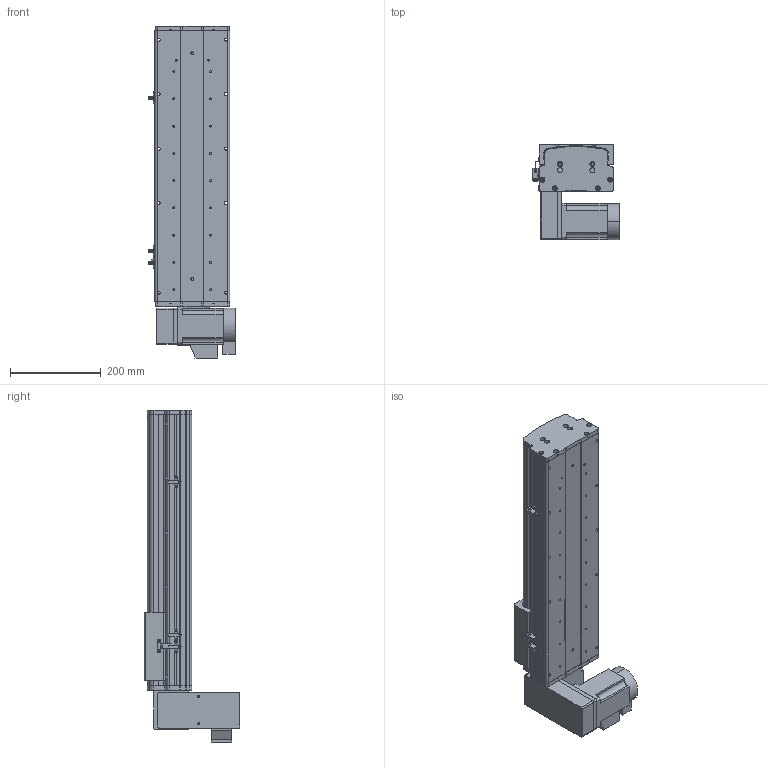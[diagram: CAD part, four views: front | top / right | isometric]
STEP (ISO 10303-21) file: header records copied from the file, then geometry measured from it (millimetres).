
FILE_DESCRIPTION (( 'STEP AP214' ), '1' );
FILE_NAME ('KSD165B-S350-MLD-CM .STEP', '2017-10-16T06:52:46', ( '微软用户' ), ( '微软中国' ), 'SwSTEP 2.0', 'SolidWorks 2014', '' );
FILE_SCHEMA (( 'AUTOMOTIVE_DESIGN' ));
Length unit declared in the file: millimetre
Products named in the file (17): 拸秶雄ん750W侜督萇儂; U倰嫖萇假蚾璃; U倰嫖萇EEㄜSX672; 覜茼え68遵圉猾敕; KSD165模组-同步带-防撞垫2; KSD165模组同步带-防撞垫1; KSD165耀郪-ヶ傷啣1-肮祭湍; KSD165模组-后端板1-同步带; KSD165模组-同步带滑动座-最新版; KSD165B-S350-MLD-CM ; 130宽模组马达安装板连板上下折丝杆同步带; 130宽模组保护罩上下左右折-同步带; HTPA26S5M250-A-H8 750W萇儂蚚; HTPA26S5M250-A-H8 400W萇儂蚚 ; 165宽马达安装板同步带左-改; KSD165模组-同步带防尘盖1-350行程-最新版; KSD165模组同步带底板-350行程-最新
Assembly tree (20 placements, depth 2):
  KSD165B-S350-MLD-CM 
    KSD165模组-同步带滑动座-最新版
    KSD165模组-后端板1-同步带
    KSD165耀郪-ヶ傷啣1-肮祭湍
    KSD165模组同步带-防撞垫1
    KSD165模组-同步带-防撞垫2
    覜茼え68遵圉猾敕
    U倰嫖萇EEㄜSX672  x3
    U倰嫖萇假蚾璃  x3
    拸秶雄ん750W侜督萇儂
    KSD165模组同步带底板-350行程-最新
    KSD165模组-同步带防尘盖1-350行程-最新版
    165宽马达安装板同步带左-改
    HTPA26S5M250-A-H8 400W萇儂蚚 
    HTPA26S5M250-A-H8 750W萇儂蚚
    130宽模组保护罩上下左右折-同步带
    130宽模组马达安装板连板上下折丝杆同步带
Bounding box: 191.2 x 210 x 731 mm (x, y, z)
Volume: 4986180.3 mm3; surface area: 1149715.3 mm2
Topology: 21 solids, 22 shells, 1875 faces, 5274 edges, 3440 vertices
Faces by surface type: cylinder 1185, plane 578, cone 112
Entity records: 60016 total; most frequent: CARTESIAN_POINT 12282, DIRECTION 9938, ORIENTED_EDGE 9208, EDGE_CURVE 4604, AXIS2_PLACEMENT_3D 3886, VERTEX_POINT 3032, CIRCLE 2208, VECTOR 2166
